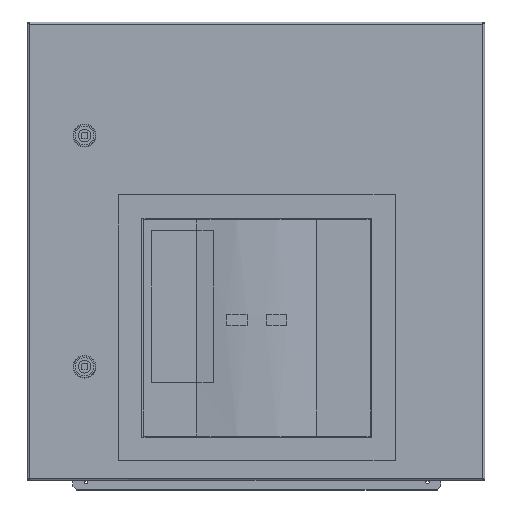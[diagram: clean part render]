
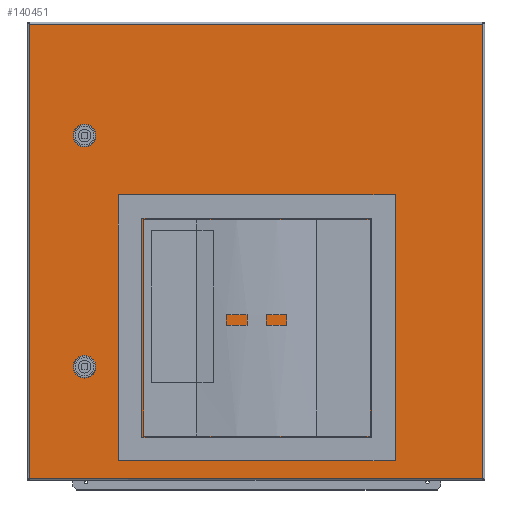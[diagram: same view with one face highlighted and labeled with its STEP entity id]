
A CAD part, top view. The second image highlights one B-rep face of the part: STEP entity #140451.
In plain terms, the highlighted planar face has unit normal (0, 0, 1).
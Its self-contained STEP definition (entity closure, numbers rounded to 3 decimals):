
#134396=CARTESIAN_POINT(' ',(293.1,544.7,26.9));
#134397=VERTEX_POINT(' ',#134396);
#135131=CARTESIAN_POINT(' ',(293.1,-44.7,26.9));
#135132=VERTEX_POINT(' ',#135131);
#136106=CARTESIAN_POINT(' ',(293.1,544.7,26.9));
#136111=DIRECTION(' ',(0.,-1.,0.));
#136116=VECTOR(' ',#136111,1.);
#136121=LINE('',#136106,#136116);
#136126=EDGE_CURVE(' ',#134397,#135132,#136121,.T.);
#138336=CARTESIAN_POINT(' ',(-295.3,-44.7,26.9));
#138337=VERTEX_POINT(' ',#138336);
#138951=CARTESIAN_POINT(' ',(-295.3,544.7,26.9));
#138952=VERTEX_POINT(' ',#138951);
#140321=DIRECTION(' ',(-0.,-0.,1.));
#140326=CARTESIAN_POINT(' ',(293.1,-44.7,26.9));
#140331=DIRECTION(' ',(0.,1.,0.));
#140336=AXIS2_PLACEMENT_3D(' ',#140326,#140321,#140331);
#140341=PLANE('NONE',#140336);
#140346=CARTESIAN_POINT(' ',(-295.3,-44.7,26.9));
#140351=DIRECTION(' ',(1.,0.,0.));
#140356=VECTOR(' ',#140351,1.);
#140361=LINE('',#140346,#140356);
#140366=EDGE_CURVE(' ',#138337,#135132,#140361,.T.);
#140371=ORIENTED_EDGE(' ',*,*,#140366,.T.);
#140376=ORIENTED_EDGE(' ',*,*,#136126,.F.);
#140381=CARTESIAN_POINT(' ',(293.1,544.7,26.9));
#140386=DIRECTION(' ',(-1.,0.,0.));
#140391=VECTOR(' ',#140386,1.);
#140396=LINE('',#140381,#140391);
#140401=EDGE_CURVE(' ',#134397,#138952,#140396,.T.);
#140406=ORIENTED_EDGE(' ',*,*,#140401,.T.);
#140411=CARTESIAN_POINT(' ',(-295.3,544.7,26.9));
#140416=DIRECTION(' ',(0.,-1.,0.));
#140421=VECTOR(' ',#140416,1.);
#140426=LINE('',#140411,#140421);
#140431=EDGE_CURVE(' ',#138952,#138337,#140426,.T.);
#140436=ORIENTED_EDGE(' ',*,*,#140431,.T.);
#140441=EDGE_LOOP(' ',(#140371,#140376,#140406,#140436));
#140446=FACE_OUTER_BOUND(' ',#140441,.T.);
#140451=ADVANCED_FACE('NONE',(#140446),#140341,.T.);
